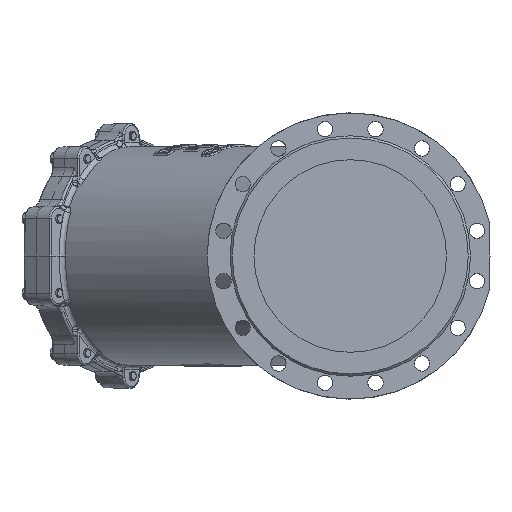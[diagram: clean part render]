
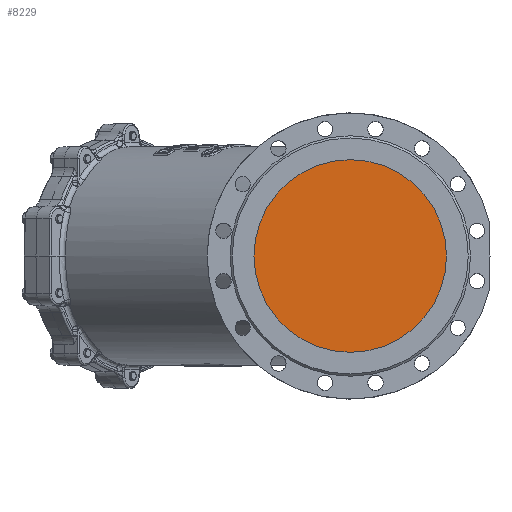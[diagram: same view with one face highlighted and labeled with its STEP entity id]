
A CAD part, left-side view. The second image highlights one B-rep face of the part: STEP entity #8229.
In plain terms, the highlighted planar face has unit normal (-1, 0, 0).
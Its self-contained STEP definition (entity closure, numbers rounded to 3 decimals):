
#8229 = ADVANCED_FACE ( 'NONE', ( #73515 ), #97193, .T. ) ;
#17039 = DIRECTION ( 'NONE',  ( 0., 0., 1. ) ) ;
#24719 = DIRECTION ( 'NONE',  ( 1., 0., 0. ) ) ;
#28421 = CARTESIAN_POINT ( 'NONE',  ( -383.184, 0., 0. ) ) ;
#37303 = CARTESIAN_POINT ( 'NONE',  ( -383.184, 0., 175. ) ) ;
#54873 = AXIS2_PLACEMENT_3D ( 'NONE', #28421, #64221, #95666 ) ;
#55149 = EDGE_LOOP ( 'NONE', ( #69743 ) ) ;
#64221 = DIRECTION ( 'NONE',  ( -1., 0., 0. ) ) ;
#65065 = CIRCLE ( 'NONE', #97991, 175. ) ;
#69743 = ORIENTED_EDGE ( 'NONE', *, *, #92805, .F. ) ;
#73515 = FACE_OUTER_BOUND ( 'NONE', #55149, .T. ) ;
#76502 = VERTEX_POINT ( 'NONE', #37303 ) ;
#79452 = CARTESIAN_POINT ( 'NONE',  ( -383.184, 0., 0. ) ) ;
#92805 = EDGE_CURVE ( 'NONE', #76502, #76502, #65065, .T. ) ;
#95666 = DIRECTION ( 'NONE',  ( 0., 0., 1. ) ) ;
#97193 = PLANE ( 'NONE',  #54873 ) ;
#97991 = AXIS2_PLACEMENT_3D ( 'NONE', #79452, #24719, #17039 ) ;
